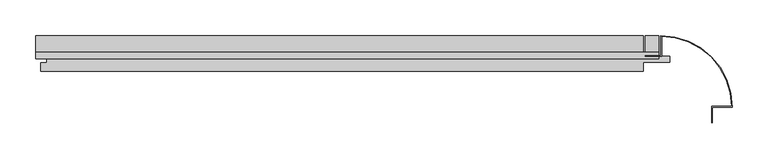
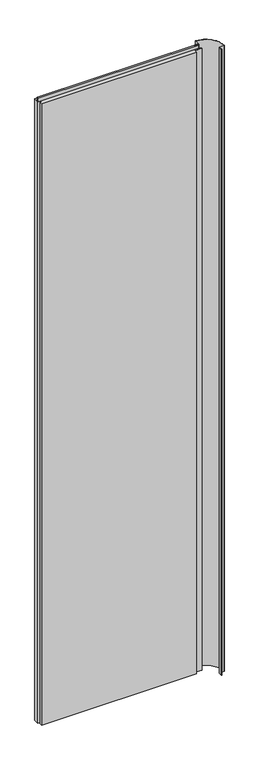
"""IFC4 building model written with IfcOpenShell, lengths in millimetres: plate geometry, Trimo_Qbiss Screen_Normal Panel-VERTICAL : HR - B."""

from ifc_helpers import new_model, si_unit, point, frame, frame_2d, origin, place, context, project, spatial, polyline, circle_curve, trimmed, segment, composite_curve, outline, extrude, source, transform, mapped, element, save


def plate_48d4b337(model_context):
    return source(origin(), model_context, "Body", "SweptSolid", [
        extrude(outline(polyline([(448.0, 97.0), (429.0, 97.0), (429.0, 126.0), (448.0, 126.0), (448.0, 97.0)])), frame((0.0, 0.0, 12.5), z_axis=(0.0, 0.0, 1.0), x_axis=(1.0, 0.0, 0.0)), (0.0, 0.0, 1.0), 3575.0),
        extrude(outline(polyline([(-425.0, 93.9), (-425.0, 102.6), (448.0, 102.6), (448.0, 93.9), (-425.0, 93.9)])), frame((0.0, 0.0, 3590.5), z_axis=(0.0, 0.0, 1.0), x_axis=(1.0, 0.0, 0.0)), (0.0, 0.0, 1.0), 19.0),
        extrude(outline(polyline([(426.0, 97.0), (463.5, 97.0), (463.5, 89.0), (426.0, 89.0), (426.0, 76.0), (-418.0, 76.0), (-418.0, 88.0), (-409.5, 88.0), (-409.5, 98.0), (-425.0, 98.0), (-425.0, 126.0), (426.0, 126.0), (426.0, 97.0)])), frame((0.0, 0.0, 12.5), z_axis=(0.0, 0.0, 1.0), x_axis=(1.0, 0.0, 0.0)), (0.0, 0.0, 1.0), 3575.0),
        extrude(outline(composite_curve([segment(polyline([(451.0, 97.8), (451.0, 126.0)]), True, "CONTINUOUS"), segment(trimmed(circle_curve(frame_2d((451.0, 26.0)), 100.0), [point((451.0, 126.0))], [point((551.0, 26.0))], False, "CARTESIAN"), True, "CONTINUOUS"), segment(polyline([(551.0, 26.0), (522.8, 26.0), (522.8, 4.0), (522.0, 4.0), (522.0, 26.8), (550.1967741, 26.8)]), True, "CONTINUOUS"), segment(trimmed(circle_curve(frame_2d((451.0, 26.0)), 99.2), [point((550.1967741, 26.8))], [point((451.8, 125.1967741))], True, "CARTESIAN"), True, "CONTINUOUS"), segment(polyline([(451.8, 125.1967741), (451.8, 97.0), (429.0, 97.0), (429.0, 97.8), (451.0, 97.8)]), True, "CONTINUOUS")], self_intersect=False)), frame((0.0, 0.0, 12.5), z_axis=(0.0, 0.0, 1.0), x_axis=(1.0, 0.0, 0.0)), (0.0, 0.0, 1.0), 3600.0),
    ])


if __name__ == "__main__":
    model = new_model("IFC4")
    model_context = context("Model", 3, world=origin())
    ifc_project = project(units=[si_unit("LENGTHUNIT", "METRE", prefix="MILLI")], contexts=[model_context])
    site = spatial("IfcSite", under=ifc_project)
    building = spatial("IfcBuilding", under=site)
    placement = place(None, origin())
    plate_shape = plate_48d4b337(model_context)
    element("IfcPlate", 1, ObjectType="Trimo_Qbiss Screen_Normal Panel-VERTICAL : HR - B", at=placement, inside=building, context=model_context, shape_type="MappedRepresentation", body=[
        mapped(plate_shape, transform((0.0, 0.0, 0.0), x_axis=(1.0, 0.0, 0.0), y_axis=(0.0, 1.0, 0.0), z_axis=(0.0, 0.0, 1.0))),
    ])
    save(model, "model.ifc")
